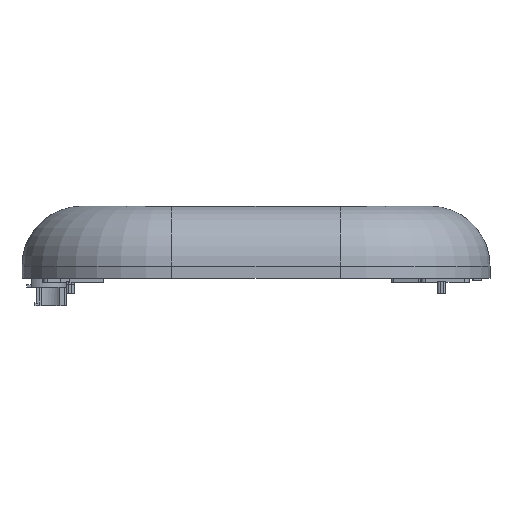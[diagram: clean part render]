
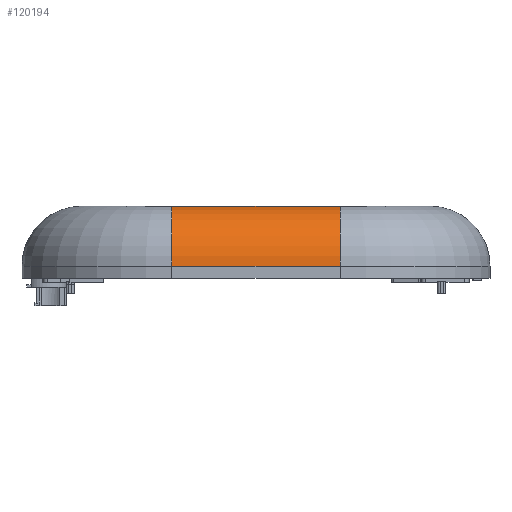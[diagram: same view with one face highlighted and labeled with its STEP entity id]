
A CAD part, front view. The second image highlights one B-rep face of the part: STEP entity #120194.
In plain terms, the highlighted cylindrical face has radius 10 mm (diameter 20 mm), a partial arc.
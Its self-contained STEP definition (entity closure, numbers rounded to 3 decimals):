
#63914 = PLANE('',#63915);
#63915 = AXIS2_PLACEMENT_3D('',#63916,#63917,#63918);
#63916 = CARTESIAN_POINT('',(0.,0.,0.));
#63917 = DIRECTION('',(0.,0.,1.));
#63918 = DIRECTION('',(1.,0.,-0.));
#98515 = VERTEX_POINT('',#98516);
#98516 = CARTESIAN_POINT('',(-14.,-65.,0.));
#98535 = TOROIDAL_SURFACE('',#98536,15.,10.);
#98536 = AXIS2_PLACEMENT_3D('',#98537,#98538,#98539);
#98537 = CARTESIAN_POINT('',(-14.,-50.,-10.));
#98538 = DIRECTION('',(0.,0.,1.));
#98539 = DIRECTION('',(1.,0.,-0.));
#98547 = EDGE_CURVE('',#98548,#98515,#98550,.T.);
#98548 = VERTEX_POINT('',#98549);
#98549 = CARTESIAN_POINT('',(14.,-65.,0.));
#98550 = SURFACE_CURVE('',#98551,(#98555,#98562),.PCURVE_S1.);
#98551 = LINE('',#98552,#98553);
#98552 = CARTESIAN_POINT('',(0.,-65.,0.));
#98553 = VECTOR('',#98554,1.);
#98554 = DIRECTION('',(-1.,0.,0.));
#98555 = PCURVE('',#63914,#98556);
#98556 = DEFINITIONAL_REPRESENTATION('',(#98557),#98561);
#98557 = LINE('',#98558,#98559);
#98558 = CARTESIAN_POINT('',(0.,-65.));
#98559 = VECTOR('',#98560,1.);
#98560 = DIRECTION('',(-1.,0.));
#98561 = ( GEOMETRIC_REPRESENTATION_CONTEXT(2) 
PARAMETRIC_REPRESENTATION_CONTEXT() REPRESENTATION_CONTEXT('2D SPACE',''
  ) );
#98562 = PCURVE('',#98563,#98568);
#98563 = CYLINDRICAL_SURFACE('',#98564,10.);
#98564 = AXIS2_PLACEMENT_3D('',#98565,#98566,#98567);
#98565 = CARTESIAN_POINT('',(0.,-65.,-10.));
#98566 = DIRECTION('',(1.,0.,0.));
#98567 = DIRECTION('',(0.,-0.707,0.707));
#98568 = DEFINITIONAL_REPRESENTATION('',(#98569),#98573);
#98569 = LINE('',#98570,#98571);
#98570 = CARTESIAN_POINT('',(5.498,0.));
#98571 = VECTOR('',#98572,1.);
#98572 = DIRECTION('',(0.,-1.));
#98573 = ( GEOMETRIC_REPRESENTATION_CONTEXT(2) 
PARAMETRIC_REPRESENTATION_CONTEXT() REPRESENTATION_CONTEXT('2D SPACE',''
  ) );
#98596 = TOROIDAL_SURFACE('',#98597,15.,10.);
#98597 = AXIS2_PLACEMENT_3D('',#98598,#98599,#98600);
#98598 = CARTESIAN_POINT('',(14.,-50.,-10.));
#98599 = DIRECTION('',(0.,0.,1.));
#98600 = DIRECTION('',(1.,0.,-0.));
#106492 = PLANE('',#106493);
#106493 = AXIS2_PLACEMENT_3D('',#106494,#106495,#106496);
#106494 = CARTESIAN_POINT('',(0.,-75.,-12.));
#106495 = DIRECTION('',(0.,1.,0.));
#106496 = DIRECTION('',(0.,-0.,1.));
#120147 = EDGE_CURVE('',#120148,#98515,#120150,.T.);
#120148 = VERTEX_POINT('',#120149);
#120149 = CARTESIAN_POINT('',(-14.,-75.,-10.));
#120150 = SURFACE_CURVE('',#120151,(#120156,#120163),.PCURVE_S1.);
#120151 = CIRCLE('',#120152,10.);
#120152 = AXIS2_PLACEMENT_3D('',#120153,#120154,#120155);
#120153 = CARTESIAN_POINT('',(-14.,-65.,-10.));
#120154 = DIRECTION('',(-1.,0.,0.));
#120155 = DIRECTION('',(0.,-1.,0.));
#120156 = PCURVE('',#98535,#120157);
#120157 = DEFINITIONAL_REPRESENTATION('',(#120158),#120162);
#120158 = LINE('',#120159,#120160);
#120159 = CARTESIAN_POINT('',(4.712,0.));
#120160 = VECTOR('',#120161,1.);
#120161 = DIRECTION('',(0.,1.));
#120162 = ( GEOMETRIC_REPRESENTATION_CONTEXT(2) 
PARAMETRIC_REPRESENTATION_CONTEXT() REPRESENTATION_CONTEXT('2D SPACE',''
  ) );
#120163 = PCURVE('',#98563,#120164);
#120164 = DEFINITIONAL_REPRESENTATION('',(#120165),#120169);
#120165 = LINE('',#120166,#120167);
#120166 = CARTESIAN_POINT('',(7.069,-14.));
#120167 = VECTOR('',#120168,1.);
#120168 = DIRECTION('',(-1.,0.));
#120169 = ( GEOMETRIC_REPRESENTATION_CONTEXT(2) 
PARAMETRIC_REPRESENTATION_CONTEXT() REPRESENTATION_CONTEXT('2D SPACE',''
  ) );
#120194 = ADVANCED_FACE('',(#120195),#98563,.T.);
#120195 = FACE_BOUND('',#120196,.T.);
#120196 = EDGE_LOOP('',(#120197,#120221,#120222,#120223));
#120197 = ORIENTED_EDGE('',*,*,#120198,.T.);
#120198 = EDGE_CURVE('',#120199,#98548,#120201,.T.);
#120199 = VERTEX_POINT('',#120200);
#120200 = CARTESIAN_POINT('',(14.,-75.,-10.));
#120201 = SURFACE_CURVE('',#120202,(#120207,#120214),.PCURVE_S1.);
#120202 = CIRCLE('',#120203,10.);
#120203 = AXIS2_PLACEMENT_3D('',#120204,#120205,#120206);
#120204 = CARTESIAN_POINT('',(14.,-65.,-10.));
#120205 = DIRECTION('',(-1.,0.,0.));
#120206 = DIRECTION('',(0.,-1.,0.));
#120207 = PCURVE('',#98563,#120208);
#120208 = DEFINITIONAL_REPRESENTATION('',(#120209),#120213);
#120209 = LINE('',#120210,#120211);
#120210 = CARTESIAN_POINT('',(7.069,14.));
#120211 = VECTOR('',#120212,1.);
#120212 = DIRECTION('',(-1.,0.));
#120213 = ( GEOMETRIC_REPRESENTATION_CONTEXT(2) 
PARAMETRIC_REPRESENTATION_CONTEXT() REPRESENTATION_CONTEXT('2D SPACE',''
  ) );
#120214 = PCURVE('',#98596,#120215);
#120215 = DEFINITIONAL_REPRESENTATION('',(#120216),#120220);
#120216 = LINE('',#120217,#120218);
#120217 = CARTESIAN_POINT('',(4.712,0.));
#120218 = VECTOR('',#120219,1.);
#120219 = DIRECTION('',(0.,1.));
#120220 = ( GEOMETRIC_REPRESENTATION_CONTEXT(2) 
PARAMETRIC_REPRESENTATION_CONTEXT() REPRESENTATION_CONTEXT('2D SPACE',''
  ) );
#120221 = ORIENTED_EDGE('',*,*,#98547,.T.);
#120222 = ORIENTED_EDGE('',*,*,#120147,.F.);
#120223 = ORIENTED_EDGE('',*,*,#120224,.T.);
#120224 = EDGE_CURVE('',#120148,#120199,#120225,.T.);
#120225 = SURFACE_CURVE('',#120226,(#120230,#120237),.PCURVE_S1.);
#120226 = LINE('',#120227,#120228);
#120227 = CARTESIAN_POINT('',(0.,-75.,-10.));
#120228 = VECTOR('',#120229,1.);
#120229 = DIRECTION('',(1.,0.,0.));
#120230 = PCURVE('',#98563,#120231);
#120231 = DEFINITIONAL_REPRESENTATION('',(#120232),#120236);
#120232 = LINE('',#120233,#120234);
#120233 = CARTESIAN_POINT('',(7.069,0.));
#120234 = VECTOR('',#120235,1.);
#120235 = DIRECTION('',(0.,1.));
#120236 = ( GEOMETRIC_REPRESENTATION_CONTEXT(2) 
PARAMETRIC_REPRESENTATION_CONTEXT() REPRESENTATION_CONTEXT('2D SPACE',''
  ) );
#120237 = PCURVE('',#106492,#120238);
#120238 = DEFINITIONAL_REPRESENTATION('',(#120239),#120243);
#120239 = LINE('',#120240,#120241);
#120240 = CARTESIAN_POINT('',(2.,0.));
#120241 = VECTOR('',#120242,1.);
#120242 = DIRECTION('',(0.,1.));
#120243 = ( GEOMETRIC_REPRESENTATION_CONTEXT(2) 
PARAMETRIC_REPRESENTATION_CONTEXT() REPRESENTATION_CONTEXT('2D SPACE',''
  ) );
